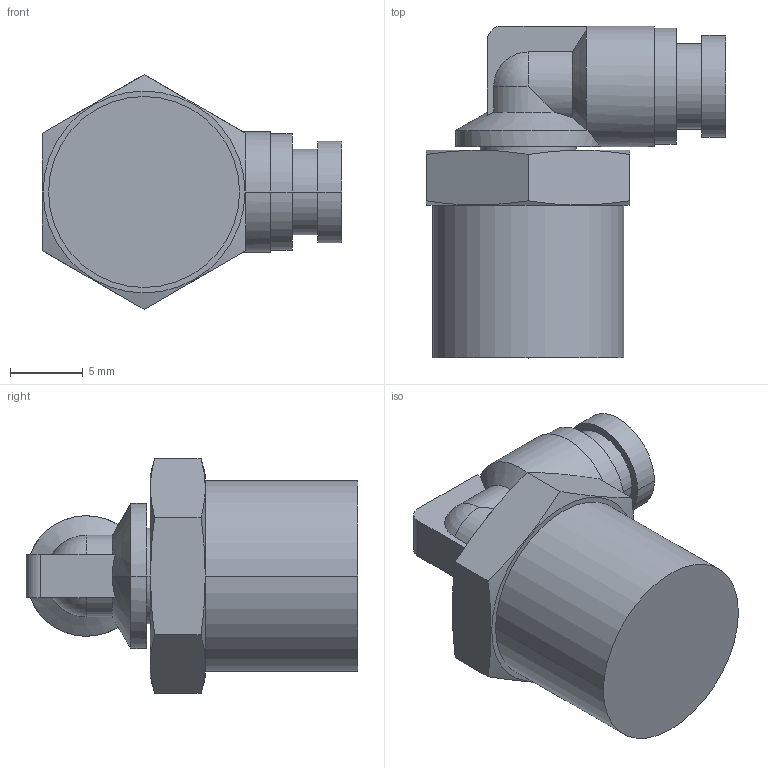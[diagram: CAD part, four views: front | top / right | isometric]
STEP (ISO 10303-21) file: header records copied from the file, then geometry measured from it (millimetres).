
FILE_DESCRIPTION( ( '' ), '1' );
FILE_NAME( 'G:/SMC狟婥/KQ2L23-02AS.stp', '2023-03-07T03:00:58', ( '' ), ( '' ), ' ', ' ', ' ' );
FILE_SCHEMA( ( 'CONFIG_CONTROL_DESIGN' ) );
Length unit declared in the file: millimetre
Products named in the file (1): 1
Bounding box: 20.6 x 22.85 x 16.17 mm (x, y, z)
Volume: 2745 mm3; surface area: 1604.2 mm2
Topology: 1 solids, 1 shells, 52 faces, 125 edges, 80 vertices
Faces by surface type: cylinder 21, plane 21, cone 8, sphere 2
Entity records: 1570 total; most frequent: CARTESIAN_POINT 352, DIRECTION 252, ORIENTED_EDGE 246, EDGE_CURVE 123, AXIS2_PLACEMENT_3D 106, VERTEX_POINT 80, EDGE_LOOP 59, ADVANCED_FACE 52
